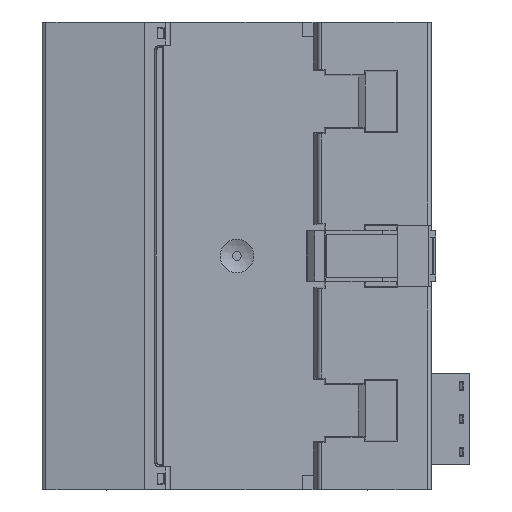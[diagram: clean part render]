
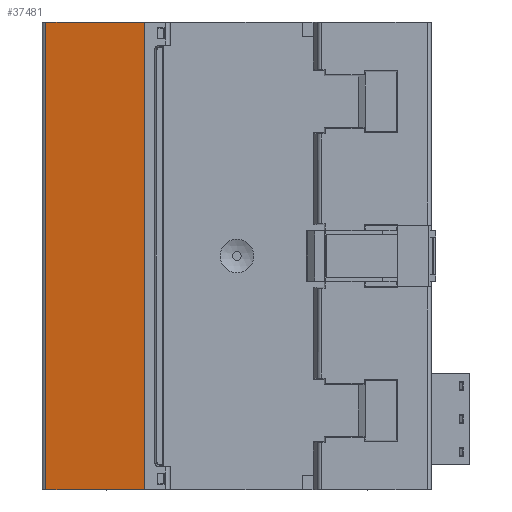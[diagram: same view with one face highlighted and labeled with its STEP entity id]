
A CAD part, front view. The second image highlights one B-rep face of the part: STEP entity #37481.
In plain terms, the highlighted planar face has unit normal (-0.174, -0.985, 0).
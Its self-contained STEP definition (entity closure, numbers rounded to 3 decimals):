
#1432=LINE('',#52080,#5509);
#3868=LINE('',#60099,#7945);
#3879=LINE('',#60122,#7956);
#3880=LINE('',#60123,#7957);
#5509=VECTOR('',#42018,23.15);
#7945=VECTOR('',#47960,107.8);
#7956=VECTOR('',#47985,23.15);
#7957=VECTOR('',#47986,107.8);
#10757=FACE_OUTER_BOUND('',#12739,.T.);
#12739=EDGE_LOOP('',(#30014,#30015,#30016,#30017));
#14441=VERTEX_POINT('',#52077);
#14442=VERTEX_POINT('',#52079);
#16534=VERTEX_POINT('',#60097);
#16539=VERTEX_POINT('',#60121);
#17999=EDGE_CURVE('',#14442,#14441,#1432,.T.);
#21225=EDGE_CURVE('',#14441,#16534,#3868,.T.);
#21237=EDGE_CURVE('',#16539,#16534,#3879,.T.);
#21238=EDGE_CURVE('',#16539,#14442,#3880,.T.);
#30014=ORIENTED_EDGE('',*,*,#21225,.T.);
#30015=ORIENTED_EDGE('',*,*,#21237,.F.);
#30016=ORIENTED_EDGE('',*,*,#21238,.T.);
#30017=ORIENTED_EDGE('',*,*,#17999,.T.);
#33850=PLANE('',#40087);
#37481=ADVANCED_FACE('',(#10757),#33850,.T.);
#40087=AXIS2_PLACEMENT_3D('',#60120,#47983,#47984);
#42018=DIRECTION('',(0.985,-0.174,0.));
#47960=DIRECTION('',(0.,0.,1.));
#47983=DIRECTION('center_axis',(-0.174,-0.985,0.));
#47984=DIRECTION('ref_axis',(0.,0.,
1.));
#47985=DIRECTION('',(0.985,-0.174,0.));
#47986=DIRECTION('',(0.,0.,-1.));
#52077=CARTESIAN_POINT('',(-21.275,-5.7,-86.92));
#52079=CARTESIAN_POINT('',(-44.074,-1.68,-86.92));
#52080=CARTESIAN_POINT('',(-44.074,-1.68,-86.92));
#60097=CARTESIAN_POINT('',(-21.275,-5.7,20.88));
#60099=CARTESIAN_POINT('',(-21.275,-5.7,-86.92));
#60120=CARTESIAN_POINT('Origin',(-44.9,-1.534,-77.52));
#60121=CARTESIAN_POINT('',(-44.074,-1.68,20.88));
#60122=CARTESIAN_POINT('',(-44.074,-1.68,20.88));
#60123=CARTESIAN_POINT('',(-44.074,-1.68,20.88));
